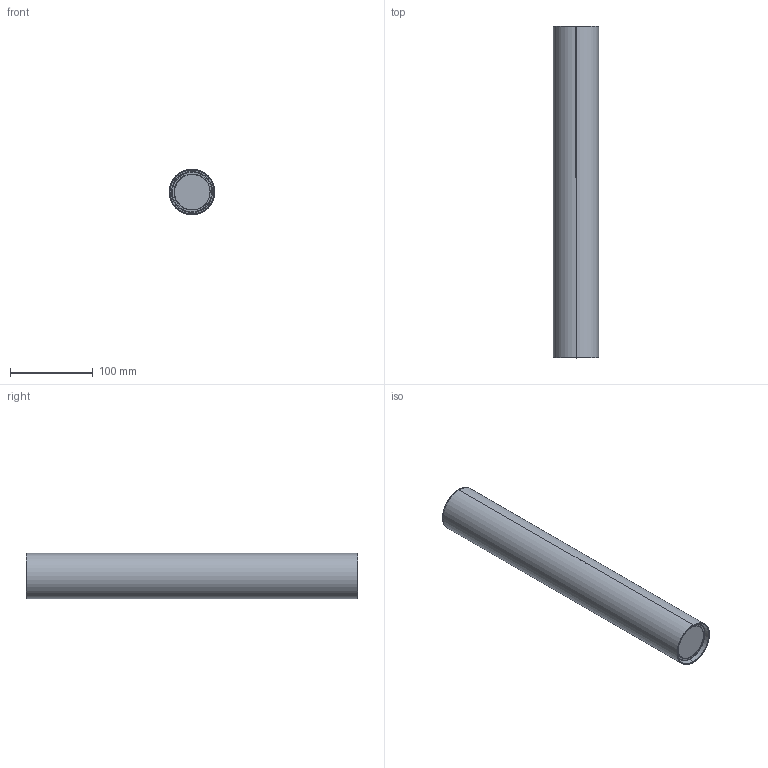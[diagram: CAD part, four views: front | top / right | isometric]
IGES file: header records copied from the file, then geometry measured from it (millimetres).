
Start section: SolidWorks IGES file using analytic representation for surfaces
Global section: file name: Z:\Modele 3D_WWW\_KOLEKCJE_WWW\EYE-L-5471-5472-6838-8913\EYE-L-5471-5472-6838-8913.IGS; native system: SolidWorks 2021; preprocessor: SolidWorks 2021; author: gabriela.tworek; date: 210625.124335; units: millimetre
Bounding box: 55 x 400 x 55 mm (x, y, z)
Surface area: 152210.8 mm2 (no closed solid volume)
Topology: 0 solids, 0 shells, 38 faces, 1013 edges, 1013 vertices
Faces by surface type: bspline 26, revolution 12
